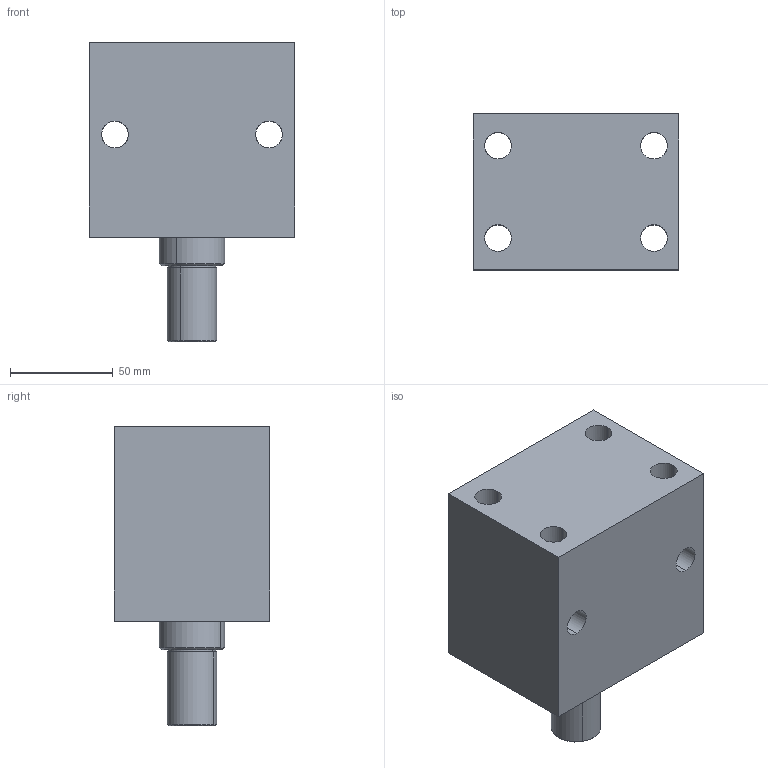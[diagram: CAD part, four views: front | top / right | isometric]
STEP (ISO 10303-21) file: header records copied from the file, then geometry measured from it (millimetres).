
FILE_DESCRIPTION (( 'STEP AP203' ), '1' );
FILE_NAME ('Block cylinder_B01C-425M.STEP', '2022-07-09T18:12:16', ( '' ), ( '' ), 'SwSTEP 2.0', 'SolidWorks 2017', '' );
FILE_SCHEMA (( 'CONFIG_CONTROL_DESIGN' ));
Length unit declared in the file: millimetre
Products named in the file (3): Piston_425M_50sT; Block cylinder_B01C-425M; Body_425M_50ST
Assembly tree (2 placements, depth 2):
  Block cylinder_B01C-425M
    Body_425M_50ST
    Piston_425M_50sT
Bounding box: 100 x 76 x 146 mm (x, y, z)
Volume: 697056.9 mm3; surface area: 82894.2 mm2
Topology: 2 solids, 2 shells, 338 faces, 940 edges, 622 vertices
Faces by surface type: plane 156, bspline 140, cylinder 34, cone 8
Entity records: 17537 total; most frequent: CARTESIAN_POINT 9505, ORIENTED_EDGE 1872, DIRECTION 1102, EDGE_CURVE 936, VERTEX_POINT 622, LINE 568, VECTOR 568, EDGE_LOOP 378
